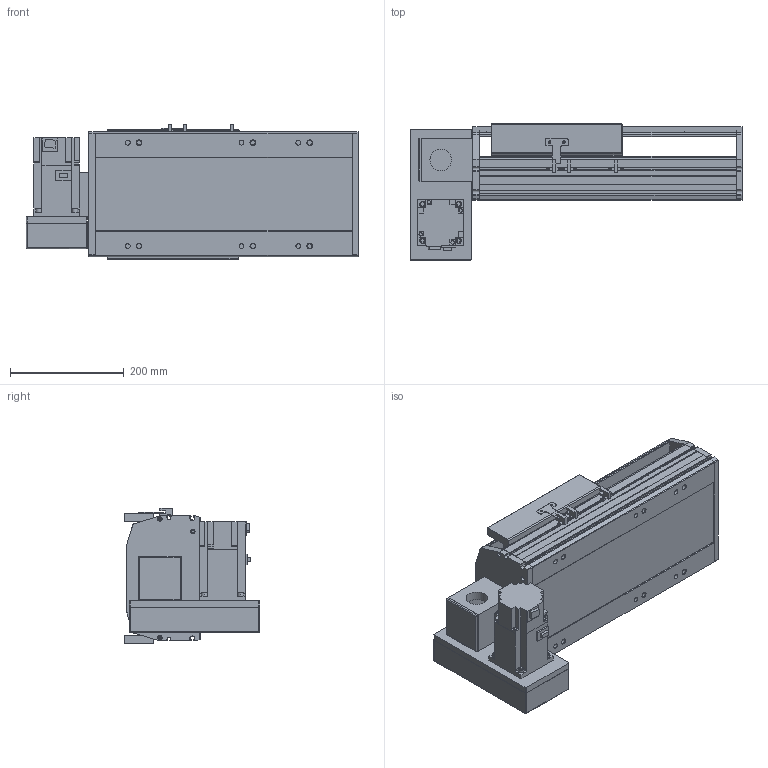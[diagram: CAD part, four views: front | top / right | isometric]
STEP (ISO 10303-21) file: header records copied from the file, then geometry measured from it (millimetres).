
FILE_DESCRIPTION(/* description */ ('STEP AP214'),/* implementation_level */ '2;1');
FILE_NAME(/* name */ 'PBS220-P40-S100-LD-T75-C1-N(0)',/* time_stamp */ '2022-06-27T09:42:27+02:00',/* author */ ('License CC BY-ND 4.0'),/* organization */ ('CADENAS'),/* preprocessor_version */ 'ST-DEVELOPER v18.102',/* originating_system */ 'PARTsolutions',/* authorisation */ ' ');
FILE_SCHEMA (('AUTOMOTIVE_DESIGN {1 0 10303 214 3 1 1}'));
Length unit declared in the file: millimetre
Products named in the file (7): PBS220-P40-S100-LD-T75-C1-N(0); PBS220_sensor; PBS220_plant; PBS220_sliser; T75-p1; PBS220T-LD_motors; PBS220-S100()_body
Assembly tree (8 placements, depth 2):
  PBS220-P40-S100-LD-T75-C1-N(0)
    PBS220_sensor  x3
    PBS220_plant
    PBS220_sliser
    T75-p1
    PBS220T-LD_motors
    PBS220-S100()_body
Bounding box: 584 x 239 x 238.5 mm (x, y, z)
Volume: 9335463.3 mm3; surface area: 1069235.5 mm2
Topology: 8 solids, 8 shells, 854 faces, 2256 edges, 1468 vertices
Faces by surface type: plane 578, cylinder 246, cone 30
Full cylindrical faces by diameter (mm): 2.013 x4, 4.5 x14, 4.917 x4, 6 x7, 6.647 x8, 8 x10, 8.376 x6, 8.5 x6, 10 x6, 14 x6, 38 x2, 40 x1, 70 x1
Entity records: 24068 total; most frequent: DIRECTION 4185, CARTESIAN_POINT 4162, ORIENTED_EDGE 3926, EDGE_CURVE 1963, AXIS2_PLACEMENT_3D 1425, VERTEX_POINT 1336, LINE 1335, VECTOR 1335
